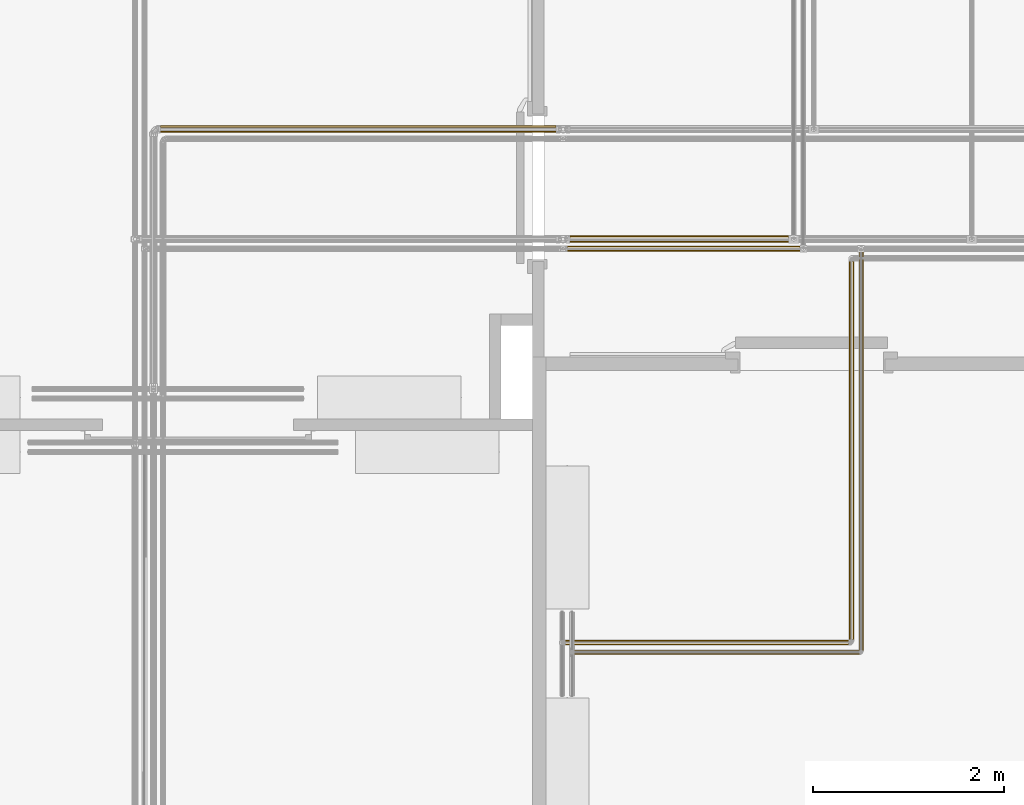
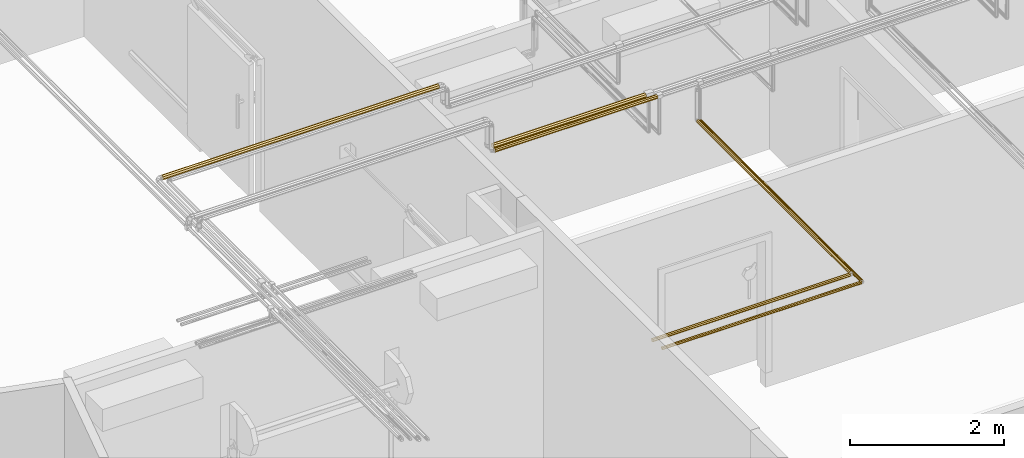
# One storey, part 88 of 652: 7 coverings.
"""IFC2X3 building model written with IfcOpenShell, lengths in millimetres."""

from ifc_helpers import new_model, entity, si_unit, converted_unit, direction, frame, origin, place, context, subcontext, project, spatial, faceted_brep, material, type_object, element, save


model = new_model("IFC2X3")

# Units and contexts
model_context = context("Model", 3, precision=0.01, world=frame((0.0, 0.0, 308426.39999999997)), true_north=direction((6.123233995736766e-17, 1.0)))
plan_context = context("Plan", 3, precision=0.01, world=frame((0.0, 0.0, 308426.39999999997)), true_north=direction((6.123233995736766e-17, 1.0)))
body_context = subcontext(model_context, "Body", "Model", "MODEL_VIEW")
ifc_project = project(units=[si_unit("LENGTHUNIT", "METRE", prefix="MILLI"), si_unit("AREAUNIT", "SQUARE_METRE"), si_unit("VOLUMEUNIT", "CUBIC_METRE"), converted_unit("PLANEANGLEUNIT", "DEGREE", entity("IfcPlaneAngleMeasure", 0.017453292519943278), si_unit("PLANEANGLEUNIT", "RADIAN"), dimensions=[0, 0, 0, 0, 0, 0, 0])], contexts=[model_context, plan_context])

# Site, building, storey
site_placement = place(None, origin())
site = spatial("IfcSite", under=ifc_project, at=site_placement, Name="Default", CompositionType="ELEMENT")
building_placement = place(site_placement, origin())
building = spatial("IfcBuilding", under=site, at=building_placement, CompositionType="ELEMENT")
storey_placement = place(building_placement, frame((0.0, 0.0, 1730.6999999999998)))
storey = spatial("IfcBuildingStorey", under=building, at=storey_placement, Name="EG_Produktion_FFB", CompositionType="ELEMENT", Elevation=1730.6999999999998)

# Coverings
ifc_material = material(Name="Dämmung - Armaflex-Schlauch")
covering_type = type_object("IfcCoveringType", Name="Rohrdämmung außen:Armaflex-Schlauch", PredefinedType="INSULATION")
covering_1_placement = place(storey_placement, frame((19516.017249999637, 59818.292227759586, 3868.2922277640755)))
element("IfcCovering", 1, at=covering_1_placement, inside=storey, type_object=covering_type, material=ifc_material, Name="Rohrdämmung außen:Armaflex-Schlauch", ObjectType="Rohrdämmung außen:Armaflex-Schlauch", PredefinedType="INSULATION", context=body_context, shape_type="Brep", body=[
    faceted_brep([(2430.798134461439, 61.82027223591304, 31.70777223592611), (2430.798134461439, 59.34840245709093, 37.675393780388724), (2430.798134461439, 57.410398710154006, 42.35414871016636), (2430.798134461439, 55.20546194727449, 47.67733694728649), (2430.798134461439, 53.000525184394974, 53.00052518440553), (2430.798134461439, 47.67733694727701, 55.20546194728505), (2430.798134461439, 42.35414871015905, 57.410398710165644), (2430.798134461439, 37.03096047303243, 59.615335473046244), (2430.798134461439, 31.70777223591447, 61.82027223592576), (2430.798134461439, 25.740150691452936, 59.3484024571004), (2430.798134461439, 21.061395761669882, 57.410398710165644), (2430.798134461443, 15.738207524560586, 55.20546194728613), (2430.798134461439, 10.415019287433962, 53.00052518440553), (2430.798134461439, 8.210082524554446, 47.677336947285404), (2430.798134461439, 6.005145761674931, 42.35414871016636), (2430.798134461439, 3.8002089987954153, 37.030960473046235), (2430.798134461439, 1.5952722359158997, 31.70777223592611), (2430.798134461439, 3.8002089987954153, 26.384583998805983), (2430.798134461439, 6.005145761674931, 21.061395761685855), (2430.798134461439, 8.210082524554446, 15.738207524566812), (2430.798134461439, 10.415019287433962, 10.415019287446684), (2430.798134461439, 15.738207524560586, 8.210082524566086), (2430.7981344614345, 21.061395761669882, 6.005145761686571), (2430.798134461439, 26.384583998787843, 3.800208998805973), (2430.798134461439, 31.70777223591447, 1.5952722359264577), (2430.798134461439, 37.67539378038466, 4.0671420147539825), (2430.798134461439, 42.35414871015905, 6.005145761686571), (2430.798134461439, 47.67733694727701, 8.21008252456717), (2430.798134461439, 53.000525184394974, 10.415019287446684), (2430.798134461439, 55.20546194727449, 15.738207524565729), (2430.798134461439, 57.410398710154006, 21.061395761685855), (2430.798134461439, 59.615335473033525, 26.384583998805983), (0.0, 47.67733694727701, 8.210082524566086), (0.0, 42.35414871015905, 6.005145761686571), (0.0, 37.03096047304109, 3.800208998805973), (0.0, 31.70777223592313, 1.595272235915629), (0.0, 25.740150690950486, 4.067142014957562), (0.0, 19.77252914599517, 6.539011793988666), (0.0, 10.415019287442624, 10.415019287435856), (0.0, 8.210082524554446, 15.738207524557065), (0.0, 6.005145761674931, 21.06139576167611), (0.0, 3.800208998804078, 26.384583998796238), (0.0, 1.5952722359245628, 31.707772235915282), (0.0, 4.067142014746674, 37.67539378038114), (0.0, 6.539011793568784, 43.643015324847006), (0.0, 10.415019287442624, 53.000525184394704), (0.0, 15.738207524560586, 55.20546194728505), (0.0, 21.061395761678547, 57.410398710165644), (0.0, 26.384583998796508, 59.615335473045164), (0.0, 31.70777223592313, 61.820272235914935), (0.0, 37.67539378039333, 59.348402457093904), (0.0, 43.64301532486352, 56.876532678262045), (0.0, 53.000525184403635, 53.000525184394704), (0.0, 55.20546194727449, 47.67733694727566), (0.0, 57.410398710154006, 42.354148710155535), (0.0, 59.615335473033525, 37.03096047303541), (0.0, 61.8202722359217, 31.707772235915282), (0.0, 59.348402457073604, 25.740150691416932), (0.0, 56.8765326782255, 19.772529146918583), (0.0, 53.000525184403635, 10.415019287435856)], [[[0, 1, 2, 3, 4, 5, 6, 7, 8, 9, 10, 11, 12, 13, 14, 15, 16, 17, 18, 19, 20, 21, 22, 23, 24, 25, 26, 27, 28, 29, 30, 31]], [[32, 33, 34, 35, 36, 37, 38, 39, 40, 41, 42, 43, 44, 45, 46, 47, 48, 49, 50, 51, 52, 53, 54, 55, 56, 57, 58, 59]], [[40, 39, 38, 20, 19, 18, 17, 16, 42, 41]], [[38, 37, 36, 35, 24, 23, 22, 21, 20]], [[56, 0, 31, 30, 29, 28, 59, 58, 57]], [[27, 26, 25, 24, 35, 34, 33, 32, 59, 28]], [[49, 8, 7, 6, 5, 4, 52, 51, 50]], [[3, 2, 1, 0, 56, 55, 54, 53, 52, 4]], [[42, 16, 15, 14, 13, 12, 45, 44, 43]], [[11, 10, 9, 8, 49, 48, 47, 46, 45, 12]]]),
])
covering_2_placement = place(storey_placement, frame((19544.08424999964, 59911.9422277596, 3861.9422277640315)))
element("IfcCovering", 2, at=covering_2_placement, inside=storey, type_object=covering_type, material=ifc_material, Name="Rohrdämmung außen:Armaflex-Schlauch", ObjectType="Rohrdämmung außen:Armaflex-Schlauch", PredefinedType="INSULATION", context=body_context, shape_type="Brep", body=[
    faceted_brep([(2285.3321344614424, 74.52027223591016, 38.057772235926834), (2285.3321344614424, 71.01699425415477, 46.515433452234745), (2285.3321344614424, 69.18046274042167, 50.94921274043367), (2285.3321344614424, 66.5105579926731, 57.39493299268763), (2285.3321344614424, 63.84065324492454, 63.84065324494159), (2285.3321344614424, 57.39493299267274, 66.51055799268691), (2285.3321344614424, 50.94921274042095, 69.18046274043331), (2285.3321344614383, 44.50349248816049, 71.85036748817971), (2285.3321344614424, 38.05777223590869, 74.52027223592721), (2285.3321344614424, 29.60011101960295, 71.01699425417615), (2285.3321344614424, 25.16633173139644, 69.18046274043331), (2285.3321344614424, 18.720611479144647, 66.51055799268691), (2285.3321344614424, 12.274891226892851, 63.84065324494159), (2285.3321344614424, 9.604986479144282, 57.39493299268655), (2285.3321344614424, 6.935081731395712, 50.94921274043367), (2285.3321344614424, 4.265176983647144, 44.50349248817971), (2285.3321344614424, 1.5952722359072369, 38.057772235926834), (2285.3321344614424, 4.265176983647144, 31.61205198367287), (2285.3321344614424, 6.935081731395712, 25.166331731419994), (2285.3321344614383, 9.604986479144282, 18.72061147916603), (2285.3321344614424, 12.274891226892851, 12.274891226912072), (2285.3321344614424, 18.720611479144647, 9.604986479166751), (2285.3321344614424, 25.16633173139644, 6.935081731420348), (2285.3321344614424, 31.612051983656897, 4.265176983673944), (2285.3321344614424, 38.05777223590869, 1.5952722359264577), (2285.3321344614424, 46.51543345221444, 5.098550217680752), (2285.3321344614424, 50.94921274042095, 6.935081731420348), (2285.3321344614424, 57.39493299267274, 9.604986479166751), (2285.3321344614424, 63.84065324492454, 12.274891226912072), (2285.3321344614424, 66.5105579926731, 18.72061147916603), (2285.3321344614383, 69.180462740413, 25.16633173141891), (2285.3321344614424, 71.85036748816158, 31.61205198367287), (0.0, 57.39493299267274, 9.60498647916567), (0.0, 50.94921274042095, 6.935081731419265), (0.0, 44.50349248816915, 4.265176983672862), (0.0, 38.057772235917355, 1.595272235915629), (0.0, 29.600111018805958, 5.098550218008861), (0.0, 21.142449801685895, 8.601828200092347), (0.0, 12.274891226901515, 12.274891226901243), (0.0, 9.604986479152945, 18.720611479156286), (0.0, 6.935081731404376, 25.166331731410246), (0.0, 4.265176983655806, 31.612051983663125), (0.0, 1.5952722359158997, 38.057772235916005), (0.0, 5.0985502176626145, 46.515433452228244), (0.0, 8.60182819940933, 54.97309466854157), (0.0, 12.274891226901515, 63.84065324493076), (0.0, 18.720611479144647, 66.51055799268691), (0.0, 25.166331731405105, 69.18046274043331), (0.0, 31.612051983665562, 71.85036748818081), (0.0, 38.057772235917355, 74.52027223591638), (0.0, 46.51543345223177, 71.0169942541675), (0.0, 54.973094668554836, 67.51371627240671), (0.0, 63.8406532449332, 63.84065324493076), (0.0, 66.51055799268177, 57.39493299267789), (0.0, 69.18046274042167, 50.949212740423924), (0.0, 71.85036748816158, 44.50349248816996), (0.0, 74.52027223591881, 38.057772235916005), (0.0, 71.01699425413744, 29.600111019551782), (0.0, 67.51371627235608, 21.14244980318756), (0.0, 63.8406532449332, 12.274891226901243)], [[[0, 1, 2, 3, 4, 5, 6, 7, 8, 9, 10, 11, 12, 13, 14, 15, 16, 17, 18, 19, 20, 21, 22, 23, 24, 25, 26, 27, 28, 29, 30, 31]], [[32, 33, 34, 35, 36, 37, 38, 39, 40, 41, 42, 43, 44, 45, 46, 47, 48, 49, 50, 51, 52, 53, 54, 55, 56, 57, 58, 59]], [[40, 39, 38, 20, 19, 18, 17, 16, 42, 41]], [[38, 37, 36, 35, 24, 23, 22, 21, 20]], [[30, 29, 28, 59, 58, 57, 56, 0, 31]], [[27, 26, 25, 24, 35, 34, 33, 32, 59, 28]], [[6, 5, 4, 52, 51, 50, 49, 8, 7]], [[3, 2, 1, 0, 56, 55, 54, 53, 52, 4]], [[14, 13, 12, 45, 44, 43, 42, 16, 15]], [[11, 10, 9, 8, 49, 48, 47, 46, 45, 12]]]),
])
covering_3_placement = place(storey_placement, frame((22563.32054968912, 55644.26081831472, 3274.642227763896)))
element("IfcCovering", 3, at=covering_3_placement, inside=storey, type_object=covering_type, material=ifc_material, Name="Rohrdämmung außen:Armaflex-Schlauch", ObjectType="Rohrdämmung außen:Armaflex-Schlauch", PredefinedType="INSULATION", context=body_context, shape_type="Brep", body=[
    faceted_brep([(42.16039712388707, 1.5952722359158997, 42.16039712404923), (37.95974090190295, 1.5952722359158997, 43.900365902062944), (33.75908467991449, 1.5952722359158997, 45.640334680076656), (29.558428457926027, 1.5952722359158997, 47.38030345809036), (25.3577722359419, 1.5952722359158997, 49.12027223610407), (20.423230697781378, 1.5952722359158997, 48.04709335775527), (15.488689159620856, 1.5952722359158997, 46.97391447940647), (11.448105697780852, 1.5952722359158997, 43.95116498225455), (7.40752223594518, 1.5952722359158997, 40.92841548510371), (7.40752223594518, 1.5952722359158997, 9.787128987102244), (11.448105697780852, 1.5952722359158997, 6.764379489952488), (15.488689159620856, 1.5952722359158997, 3.741629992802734), (20.423230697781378, 1.5952722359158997, 2.6684511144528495), (25.3577722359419, 1.5952722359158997, 1.595272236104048), (30.2160106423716, 1.5952722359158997, 3.607620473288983), (33.75908467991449, 1.5952722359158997, 5.075209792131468), (37.95974090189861, 1.5952722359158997, 6.815178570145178), (42.16039712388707, 1.5952722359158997, 8.555147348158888), (43.900365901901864, 1.5952722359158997, 12.755803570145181), (45.64033467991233, 1.5952722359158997, 16.956459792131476), (47.38030345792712, 1.5952722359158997, 21.15711601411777), (49.12027223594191, 1.5952722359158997, 25.35777223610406), (47.380303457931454, 1.5952722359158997, 29.558428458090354), (45.64033467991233, 1.5952722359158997, 33.75908468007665), (43.900365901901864, 1.5952722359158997, 37.95974090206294), (8.55514734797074, 4187.788931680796, 8.555147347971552), (6.815178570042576, 4187.788931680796, 12.755803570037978), (5.075209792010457, 4187.788931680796, 16.956459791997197), (3.335241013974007, 4187.788931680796, 21.15711601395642), (1.5952722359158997, 4187.788931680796, 25.357772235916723), (2.6684511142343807, 4187.788931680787, 30.292313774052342), (3.741629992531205, 4187.788931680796, 35.226855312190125), (6.764379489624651, 4187.788931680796, 39.267438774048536), (9.787128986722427, 4187.788931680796, 43.308022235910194), (40.92841548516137, 4187.788931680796, 43.308022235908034), (43.95116498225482, 4187.788931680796, 39.2674387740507), (46.97391447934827, 4187.788931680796, 35.226855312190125), (48.04709335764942, 4187.788931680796, 30.292313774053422), (49.12027223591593, 4187.788931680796, 25.357772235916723), (47.10792399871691, 4187.788931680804, 20.49953382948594), (45.09557576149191, 4187.788931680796, 15.641295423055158), (42.16039712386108, 4187.788931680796, 8.555147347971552), (37.95974090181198, 4187.788931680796, 6.815178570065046), (33.75908467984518, 4187.788931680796, 5.075209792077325), (29.558428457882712, 4187.788931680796, 3.3352410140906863), (25.357772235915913, 4187.788931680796, 1.595272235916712), (20.499533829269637, 4187.788931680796, 3.6076204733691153), (16.956459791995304, 4187.788931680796, 5.075209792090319), (12.755803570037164, 4187.788931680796, 6.815178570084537), (2.345488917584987, 6.657305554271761, 21.202751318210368), (1.5952722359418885, 7.407522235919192, 25.35777223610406), (3.095705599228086, 5.907088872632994, 17.04773040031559), (5.251613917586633, 3.75118055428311, 13.417429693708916), (33.6678140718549, 4183.47711504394, 47.61983887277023), (37.298114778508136, 4185.633023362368, 45.463930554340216), (29.51279315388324, 4182.726898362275, 48.37005555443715), (25.357772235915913, 4181.976681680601, 49.12027223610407), (13.417429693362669, 4185.633023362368, 45.463930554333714), (17.047730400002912, 4183.477115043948, 47.61983887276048), (20.07568798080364, 4182.930397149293, 48.166556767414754), (2.345488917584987, 6.657305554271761, 29.512793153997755), (3.095705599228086, 5.907088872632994, 33.66781407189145), (5.251613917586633, 3.751180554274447, 37.29811477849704)], [[[0, 1, 2, 3, 4, 5, 6, 7, 8, 9, 10, 11, 12, 13, 14, 15, 16, 17, 18, 19, 20, 21, 22, 23, 24]], [[25, 26, 27, 28, 29, 30, 31, 32, 33, 34, 35, 36, 37, 38, 39, 40, 41, 42, 43, 44, 45, 46, 47, 48]], [[25, 10, 9]], [[29, 49, 50]], [[49, 29, 28]], [[51, 27, 52]], [[12, 47, 46, 45]], [[10, 25, 48]], [[47, 12, 11]], [[9, 52, 26]], [[28, 51, 49]], [[27, 51, 28]], [[48, 11, 10]], [[9, 26, 25]], [[48, 47, 11]], [[45, 13, 12]], [[52, 27, 26]], [[38, 21, 20, 19, 18, 17, 41, 40, 39]], [[16, 15, 14, 13, 45, 44, 43, 42, 41, 17]], [[38, 22, 21]], [[2, 53, 3]], [[22, 38, 37]], [[37, 23, 22]], [[34, 0, 35]], [[1, 34, 54]], [[54, 53, 2]], [[55, 56, 4]], [[36, 35, 24]], [[35, 0, 24]], [[36, 24, 23]], [[3, 53, 55]], [[0, 34, 1]], [[37, 36, 23]], [[54, 2, 1]], [[55, 4, 3]], [[57, 33, 7]], [[58, 5, 56, 59]], [[5, 58, 6]], [[56, 5, 4]], [[57, 7, 6]], [[29, 50, 60]], [[30, 61, 31]], [[6, 58, 57]], [[62, 8, 32]], [[60, 61, 30]], [[31, 61, 62]], [[33, 8, 7]], [[31, 62, 32]], [[8, 33, 32]], [[29, 60, 30]], [[49, 51, 52, 9, 8, 62, 61, 60, 50]], [[34, 33, 57, 58, 59, 56, 55, 53, 54]]]),
])
covering_4_placement = place(storey_placement, frame((19579.60591691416, 55602.54806831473, 3274.6422277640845)))
element("IfcCovering", 4, at=covering_4_placement, inside=storey, type_object=covering_type, material=ifc_material, Name="Rohrdämmung außen:Armaflex-Schlauch", ObjectType="Rohrdämmung außen:Armaflex-Schlauch", PredefinedType="INSULATION", context=body_context, shape_type="Brep", body=[
    faceted_brep([(2991.1221550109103, 43.30802223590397, 40.928415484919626), (2991.122155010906, 39.267438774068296, 43.9511649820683), (2991.1221550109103, 35.22685531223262, 46.973914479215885), (2991.1221550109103, 30.292313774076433, 48.047093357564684), (2991.1221550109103, 25.35777223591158, 49.12027223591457), (2991.1221550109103, 21.956309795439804, 47.711340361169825), (2991.1221550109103, 16.956459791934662, 45.640334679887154), (2991.1221550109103, 12.755803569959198, 43.90036590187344), (2991.1221550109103, 8.55514734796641, 42.16039712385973), (2991.1221550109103, 6.815178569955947, 37.95974090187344), (2991.1221550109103, 5.075209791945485, 33.759084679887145), (2991.1221550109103, 3.3352410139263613, 29.558428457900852), (2991.1221550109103, 1.5952722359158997, 25.35777223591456), (2991.1221550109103, 3.335241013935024, 21.157116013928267), (2991.1221550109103, 5.075209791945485, 16.956459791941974), (2991.1221550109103, 6.815178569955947, 12.75580356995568), (2991.1221550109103, 8.55514734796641, 8.555147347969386), (2991.1221550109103, 12.755803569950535, 6.815178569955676), (2991.1221550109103, 16.956459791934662, 5.075209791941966), (2991.1221550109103, 21.157116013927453, 3.3352410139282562), (2991.1221550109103, 25.35777223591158, 1.5952722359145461), (2991.1221550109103, 30.292313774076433, 2.668451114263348), (2991.1221550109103, 35.22685531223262, 3.741629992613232), (2991.1221550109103, 39.267438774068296, 6.7643794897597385), (2991.1221550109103, 43.30802223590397, 9.78712898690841), (1.5952722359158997, 3.7416299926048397, 15.488689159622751), (1.5952722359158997, 2.668451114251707, 20.42323069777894), (1.5952722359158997, 1.5952722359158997, 25.357772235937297), (1.5952722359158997, 4.413135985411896, 32.16069711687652), (1.5952722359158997, 6.484141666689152, 37.16054712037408), (1.5952722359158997, 8.55514734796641, 42.16039712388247), (1.5952722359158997, 12.755803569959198, 43.900365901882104), (1.5952722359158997, 16.956459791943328, 45.64033467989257), (1.5952722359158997, 21.157116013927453, 47.38030345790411), (1.5952722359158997, 25.35777223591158, 49.120272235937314), (1.5952722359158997, 28.759234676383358, 47.71134036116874), (1.5952722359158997, 33.759084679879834, 45.64033467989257), (1.5952722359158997, 37.95974090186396, 43.900365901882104), (1.5952722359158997, 42.160397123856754, 42.16039712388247), (1.5952722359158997, 43.90036590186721, 37.959740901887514), (1.5952722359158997, 45.640334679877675, 33.75908467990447), (1.5952722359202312, 47.3803034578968, 29.558428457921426), (1.5952722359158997, 49.12027223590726, 25.357772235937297), (1.5952722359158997, 48.047093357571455, 20.42323069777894), (1.5952722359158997, 46.97391447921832, 15.488689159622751), (1.5952722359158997, 43.95116498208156, 11.448105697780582), (1.5952722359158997, 40.92841548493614, 7.407522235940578), (1.5952722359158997, 9.787128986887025, 7.407522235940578), (1.5952722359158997, 6.7643794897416, 11.448105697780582), (5.90708887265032, 17.047730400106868, 3.0957055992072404), (3.75118055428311, 13.417429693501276, 5.251613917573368), (6.657305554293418, 21.202751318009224, 2.3454889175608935), (7.407522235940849, 25.35777223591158, 1.5952722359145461), (3.75118055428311, 37.29811477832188, 5.251613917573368), (5.90708887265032, 33.66781407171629, 3.0957055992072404), (6.739784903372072, 29.05598723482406, 2.2630095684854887), (2985.3099050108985, 49.12027223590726, 25.35777223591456), (2986.0601216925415, 48.37005555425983, 21.202751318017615), (2986.810338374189, 47.61983887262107, 17.047730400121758), (2988.9662466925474, 45.46393055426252, 13.417429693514), (2986.0601216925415, 48.37005555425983, 29.512793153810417), (2986.8103383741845, 47.61983887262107, 33.667814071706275), (2988.9662466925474, 45.46393055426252, 37.29811477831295)], [[[0, 1, 2, 3, 4, 5, 6, 7, 8, 9, 10, 11, 12, 13, 14, 15, 16, 17, 18, 19, 20, 21, 22, 23, 24]], [[25, 26, 27, 28, 29, 30, 31, 32, 33, 34, 35, 36, 37, 38, 39, 40, 41, 42, 43, 44, 45, 46, 47, 48]], [[27, 13, 12]], [[18, 49, 19]], [[13, 27, 26]], [[26, 14, 13]], [[47, 16, 48]], [[17, 47, 50]], [[50, 49, 18]], [[51, 52, 20]], [[25, 48, 15]], [[48, 16, 15]], [[25, 15, 14]], [[19, 49, 51]], [[16, 47, 17]], [[26, 25, 14]], [[50, 18, 17]], [[51, 20, 19]], [[53, 46, 23]], [[54, 21, 55]], [[20, 52, 55]], [[21, 54, 22]], [[20, 55, 21]], [[53, 23, 22]], [[42, 56, 57]], [[43, 58, 44]], [[22, 54, 53]], [[59, 24, 45]], [[57, 58, 43]], [[44, 58, 59]], [[46, 24, 23]], [[44, 59, 45]], [[24, 46, 45]], [[42, 57, 43]], [[42, 60, 56]], [[3, 36, 35]], [[60, 42, 41]], [[61, 40, 62]], [[1, 38, 37]], [[38, 1, 0]], [[36, 3, 2]], [[0, 39, 38]], [[40, 61, 41]], [[35, 4, 3]], [[0, 62, 39]], [[37, 2, 1]], [[37, 36, 2]], [[41, 61, 60]], [[35, 34, 4]], [[62, 40, 39]], [[32, 31, 30, 8, 7, 6, 5, 4, 34, 33]], [[8, 30, 29, 28, 27, 12, 11, 10, 9]], [[61, 62, 0, 24, 59, 58, 57, 56, 60]], [[47, 46, 53, 54, 55, 52, 51, 49, 50]]]),
])
covering_5_placement = place(storey_placement, frame((22460.145549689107, 55759.88959055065, 3371.467227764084)))
element("IfcCovering", 5, at=covering_5_placement, inside=storey, type_object=covering_type, material=ifc_material, Name="Rohrdämmung außen:Armaflex-Schlauch", ObjectType="Rohrdämmung außen:Armaflex-Schlauch", PredefinedType="INSULATION", context=body_context, shape_type="Brep", body=[
    faceted_brep([(9.485083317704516, 0.0, 47.58046115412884), (7.512630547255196, 0.0, 42.818538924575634), (5.540177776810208, 0.0, 38.05661669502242), (3.5677250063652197, 0.0, 33.29469446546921), (1.5952722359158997, 0.0, 28.532772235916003), (3.567725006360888, 0.0, 23.770850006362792), (5.540177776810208, 0.0, 19.008927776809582), (7.512630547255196, 0.0, 14.247005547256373), (9.485083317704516, 0.0, 9.485083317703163), (14.24700554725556, 0.0, 7.512630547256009), (19.008927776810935, 0.0, 5.5401777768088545), (23.770850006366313, 0.0, 3.567725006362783), (28.532772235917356, 0.0, 1.595272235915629), (34.73440702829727, 0.0, 4.164073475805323), (38.05661669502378, 0.0, 5.540177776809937), (42.81853892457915, 0.0, 7.512630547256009), (47.5804611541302, 0.0, 9.485083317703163), (49.552913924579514, 0.0, 14.247005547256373), (51.5253666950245, 0.0, 19.008927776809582), (53.49781946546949, 0.0, 23.770850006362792), (55.47027223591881, 0.0, 28.532772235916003), (52.90147099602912, 0.0, 34.73440702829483), (51.5253666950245, 0.0, 38.05661669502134), (49.552913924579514, 0.0, 42.818538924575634), (47.5804611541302, 0.0, 47.58046115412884), (42.81853892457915, 0.0, 49.552913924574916), (38.05661669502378, 0.0, 51.525366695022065), (33.29469446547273, 0.0, 53.49781946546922), (28.532772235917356, 0.0, 55.470272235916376), (22.331137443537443, 0.0, 52.90147099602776), (19.008927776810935, 0.0, 51.525366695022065), (14.24700554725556, 0.0, 49.552913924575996), (47.5804611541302, 3958.126659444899, 9.485083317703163), (42.81853892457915, 3958.126659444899, 7.512630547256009), (38.05661669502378, 3958.126659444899, 5.540177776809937), (33.29469446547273, 3958.126659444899, 3.567725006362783), (28.532772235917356, 3958.126659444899, 1.595272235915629), (22.33113744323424, 3958.126659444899, 4.164073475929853), (16.129502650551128, 3958.126659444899, 6.732874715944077), (9.485083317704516, 3958.126659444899, 9.485083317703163), (7.512630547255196, 3958.126659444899, 14.247005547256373), (5.540177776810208, 3958.126659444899, 19.008927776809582), (3.5677250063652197, 3958.126659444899, 23.770850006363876), (1.5952722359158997, 3958.126659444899, 28.532772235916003), (4.164073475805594, 3958.126659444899, 34.734407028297), (6.732874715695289, 3958.126659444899, 40.93604182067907), (9.485083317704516, 3958.126659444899, 47.58046115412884), (14.24700554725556, 3958.126659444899, 49.552913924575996), (19.008927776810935, 3958.126659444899, 51.525366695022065), (23.77085000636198, 3958.126659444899, 53.49781946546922), (28.532772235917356, 3958.126659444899, 55.470272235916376), (34.7344070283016, 3958.126659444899, 52.9014709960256), (40.936041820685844, 3958.126659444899, 50.33266975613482), (47.5804611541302, 3958.126659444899, 47.58046115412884), (49.552913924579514, 3958.126659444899, 42.818538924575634), (51.5253666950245, 3958.126659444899, 38.05661669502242), (53.49781946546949, 3958.12665944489, 33.294694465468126), (55.47027223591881, 3958.126659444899, 28.532772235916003), (52.90147099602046, 3958.126659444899, 22.331137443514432), (50.332669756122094, 3958.126659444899, 16.129502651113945)], [[[0, 1, 2, 3, 4, 5, 6, 7, 8, 9, 10, 11, 12, 13, 14, 15, 16, 17, 18, 19, 20, 21, 22, 23, 24, 25, 26, 27, 28, 29, 30, 31]], [[32, 33, 34, 35, 36, 37, 38, 39, 40, 41, 42, 43, 44, 45, 46, 47, 48, 49, 50, 51, 52, 53, 54, 55, 56, 57, 58, 59]], [[41, 40, 39, 8, 7, 6, 5, 4, 43, 42]], [[39, 38, 37, 36, 12, 11, 10, 9, 8]], [[18, 17, 16, 32, 59, 58, 57, 20, 19]], [[15, 14, 13, 12, 36, 35, 34, 33, 32, 16]], [[26, 25, 24, 53, 52, 51, 50, 28, 27]], [[23, 22, 21, 20, 57, 56, 55, 54, 53, 24]], [[2, 1, 0, 46, 45, 44, 43, 4, 3]], [[31, 30, 29, 28, 50, 49, 48, 47, 46, 0]]]),
])
covering_6_placement = place(storey_placement, frame((19495.23468915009, 55699.3730683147, 3371.467227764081)))
element("IfcCovering", 6, at=covering_6_placement, inside=storey, type_object=covering_type, material=ifc_material, Name="Rohrdämmung außen:Armaflex-Schlauch", ObjectType="Rohrdämmung außen:Armaflex-Schlauch", PredefinedType="INSULATION", context=body_context, shape_type="Brep", body=[
    faceted_brep([(2961.4598827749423, 9.485083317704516, 9.485083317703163), (2961.4598827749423, 14.247005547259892, 7.512630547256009), (2961.4598827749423, 19.008927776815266, 5.540177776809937), (2961.4598827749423, 23.77085000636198, 3.567725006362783), (2961.4598827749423, 28.532772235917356, 1.595272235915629), (2961.4598827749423, 32.67715658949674, 3.311932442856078), (2961.4598827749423, 38.05661669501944, 5.540177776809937), (2961.4598827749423, 42.818538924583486, 7.512630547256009), (2961.4598827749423, 47.5804611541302, 9.485083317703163), (2961.4598827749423, 49.552913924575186, 14.247005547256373), (2961.4598827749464, 51.525366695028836, 19.008927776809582), (2961.459882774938, 53.49781946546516, 23.77085000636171), (2961.4598827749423, 55.47027223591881, 28.532772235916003), (2961.4598827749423, 53.753612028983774, 32.67715658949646), (2961.4598827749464, 51.525366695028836, 38.05661669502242), (2961.4598827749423, 49.552913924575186, 42.818538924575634), (2961.4598827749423, 47.5804611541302, 47.58046115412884), (2961.4598827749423, 42.81853892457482, 49.552913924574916), (2961.4598827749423, 38.05661669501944, 51.525366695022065), (2961.459882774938, 33.29469446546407, 53.49781946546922), (2961.4598827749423, 28.532772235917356, 55.470272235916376), (2961.4598827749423, 24.38838788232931, 53.75361202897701), (2961.4598827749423, 19.008927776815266, 51.525366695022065), (2961.4598827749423, 14.247005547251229, 49.552913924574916), (2961.4598827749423, 9.485083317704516, 47.58046115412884), (2961.4598827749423, 7.512630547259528, 42.818538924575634), (2961.4598827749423, 5.54017777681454, 38.05661669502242), (2961.4598827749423, 3.567725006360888, 33.29469446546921), (2961.4598827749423, 1.5952722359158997, 28.532772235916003), (2961.4598827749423, 3.567725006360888, 23.770850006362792), (2961.4598827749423, 5.54017777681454, 19.008927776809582), (2961.4598827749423, 7.512630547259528, 14.247005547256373), (0.0, 47.58046115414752, 47.580461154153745), (0.0, 49.552913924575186, 42.818538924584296), (0.0, 51.525366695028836, 38.056616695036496), (0.0, 53.497819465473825, 33.2946944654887), (0.0, 55.470272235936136, 28.532772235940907), (0.0, 52.03695182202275, 20.244003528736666), (0.0, 49.8087064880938, 14.864543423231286), (0.0, 47.58046115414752, 9.48508331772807), (0.0, 42.81853892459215, 7.512630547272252), (0.0, 38.05661669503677, 5.540177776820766), (0.0, 33.29469446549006, 3.5677250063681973), (0.0, 28.532772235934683, 1.595272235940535), (0.0, 20.244003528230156, 5.028592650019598), (0.0, 14.864543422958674, 7.256837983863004), (0.0, 9.485083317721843, 9.48508331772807), (0.0, 7.512630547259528, 14.247005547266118), (0.0, 5.54017777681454, 19.00892777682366), (0.0, 3.567725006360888, 23.770850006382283), (0.0, 1.5952722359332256, 28.532772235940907), (0.0, 5.028592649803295, 36.82154094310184), (0.0, 7.2568379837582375, 42.20100104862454), (0.0, 9.485083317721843, 47.580461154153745), (0.0, 14.247005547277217, 49.55291392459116), (0.0, 19.008927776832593, 51.52536669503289), (0.0, 23.770850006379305, 53.497819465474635), (0.0, 28.532772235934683, 55.47027223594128), (0.0, 36.82154094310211, 52.03695182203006), (0.0, 42.20100104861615, 49.80870648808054)], [[[0, 1, 2, 3, 4, 5, 6, 7, 8, 9, 10, 11, 12, 13, 14, 15, 16, 17, 18, 19, 20, 21, 22, 23, 24, 25, 26, 27, 28, 29, 30, 31]], [[32, 33, 34, 35, 36, 37, 38, 39, 40, 41, 42, 43, 44, 45, 46, 47, 48, 49, 50, 51, 52, 53, 54, 55, 56, 57, 58, 59]], [[48, 47, 46, 0, 31, 30, 29, 28, 50, 49]], [[44, 43, 4, 3, 2, 1, 0, 46, 45]], [[41, 40, 39, 8, 7, 6, 5, 4, 43, 42]], [[8, 39, 38, 37, 36, 12, 11, 10, 9]], [[34, 33, 32, 16, 15, 14, 13, 12, 36, 35]], [[16, 32, 59, 58, 57, 20, 19, 18, 17]], [[55, 54, 53, 24, 23, 22, 21, 20, 57, 56]], [[24, 53, 52, 51, 50, 28, 27, 26, 25]]]),
])
covering_7_placement = place(storey_placement, frame((15258.277952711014, 61061.94222776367, 4238.057772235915)))
element("IfcCovering", 7, at=covering_7_placement, inside=storey, type_object=covering_type, material=ifc_material, Name="Rohrdämmung außen:Armaflex-Schlauch", ObjectType="Rohrdämmung außen:Armaflex-Schlauch", PredefinedType="INSULATION", context=body_context, shape_type="Brep", body=[
    faceted_brep([(0.0, 1.5952722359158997, -38.057772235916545), (0.0, 3.530229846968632, -33.38637132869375), (0.0, 6.935081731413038, -25.166331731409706), (0.0, 9.604986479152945, -18.72061147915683), (0.0, 12.274891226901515, -12.274891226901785), (0.0, 18.72061147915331, -9.604986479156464), (0.0, 25.166331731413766, -6.935081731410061), (0.0, 31.612051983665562, -4.265176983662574), (0.0, 38.057772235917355, -1.5952722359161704), (0.0, 42.729173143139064, -3.5302298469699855), (0.0, 50.94921274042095, -6.935081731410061), (0.0, 57.394932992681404, -9.604986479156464), (0.0, 63.8406532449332, -12.274891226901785), (0.0, 66.51055799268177, -18.72061147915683), (0.0, 69.18046274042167, -25.166331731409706), (0.0, 71.85036748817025, -31.612051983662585), (0.0, 74.52027223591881, -38.057772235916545), (0.0, 71.85036748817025, -44.50349248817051), (0.0, 69.18046274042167, -50.949212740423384), (0.0, 66.51055799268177, -57.39493299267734), (0.0, 63.8406532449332, -63.8406532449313), (0.0, 57.394932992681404, -66.51055799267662), (0.0, 50.94921274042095, -69.1804627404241), (0.0, 44.50349248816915, -71.85036748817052), (0.0, 38.057772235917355, -74.52027223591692), (0.0, 33.386371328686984, -72.58531462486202), (0.0, 25.166331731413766, -69.18046274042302), (0.0, 18.72061147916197, -66.51055799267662), (0.0, 12.274891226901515, -63.8406532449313), (0.0, 9.604986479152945, -57.39493299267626), (0.0, 6.935081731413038, -50.949212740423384), (0.0, 4.265176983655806, -44.50349248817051), (4137.637797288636, 18.72061147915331, -66.51055799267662), (4137.637797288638, 25.166331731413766, -69.18046274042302), (4137.637797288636, 31.612051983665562, -71.85036748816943), (4137.637797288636, 38.057772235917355, -74.52027223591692), (4137.637797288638, 47.4005740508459, -70.65035701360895), (4137.637797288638, 55.62061364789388, -67.24550512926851), (4137.637797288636, 63.8406532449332, -63.8406532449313), (4137.637797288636, 66.51055799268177, -57.39493299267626), (4137.637797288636, 69.18046274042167, -50.949212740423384), (4137.637797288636, 71.8503674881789, -44.50349248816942), (4137.637797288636, 74.52027223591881, -38.057772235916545), (4137.637797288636, 70.65035701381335, -28.71497042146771), (4137.637797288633, 67.24550512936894, -20.49493082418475), (4137.637797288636, 63.8406532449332, -12.274891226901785), (4137.637797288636, 57.394932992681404, -9.604986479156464), (4137.637797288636, 50.94921274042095, -6.935081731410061), (4137.637797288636, 44.50349248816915, -4.265176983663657), (4137.637797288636, 38.057772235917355, -1.5952722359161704), (4137.637797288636, 28.714970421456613, -5.465187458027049), (4137.637797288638, 20.494930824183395, -8.870039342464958), (4137.637797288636, 12.274891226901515, -12.274891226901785), (4137.637797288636, 9.604986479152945, -18.72061147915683), (4137.637797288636, 6.935081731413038, -25.166331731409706), (4137.637797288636, 4.265176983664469, -31.612051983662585), (4137.637797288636, 1.5952722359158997, -38.057772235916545), (4137.637797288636, 5.465187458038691, -47.400574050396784), (4137.637797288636, 8.870039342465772, -55.620613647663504), (4137.637797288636, 12.274891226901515, -63.8406532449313)], [[[0, 1, 2, 3, 4, 5, 6, 7, 8, 9, 10, 11, 12, 13, 14, 15, 16, 17, 18, 19, 20, 21, 22, 23, 24, 25, 26, 27, 28, 29, 30, 31]], [[32, 33, 34, 35, 36, 37, 38, 39, 40, 41, 42, 43, 44, 45, 46, 47, 48, 49, 50, 51, 52, 53, 54, 55, 56, 57, 58, 59]], [[40, 39, 38, 20, 19, 18, 17, 16, 42, 41]], [[36, 35, 24, 23, 22, 21, 20, 38, 37]], [[33, 32, 59, 28, 27, 26, 25, 24, 35, 34]], [[28, 59, 58, 57, 56, 0, 31, 30, 29]], [[54, 53, 52, 4, 3, 2, 1, 0, 56, 55]], [[4, 52, 51, 50, 49, 8, 7, 6, 5]], [[47, 46, 45, 12, 11, 10, 9, 8, 49, 48]], [[12, 45, 44, 43, 42, 16, 15, 14, 13]]]),
])

save(model, "model.ifc")
